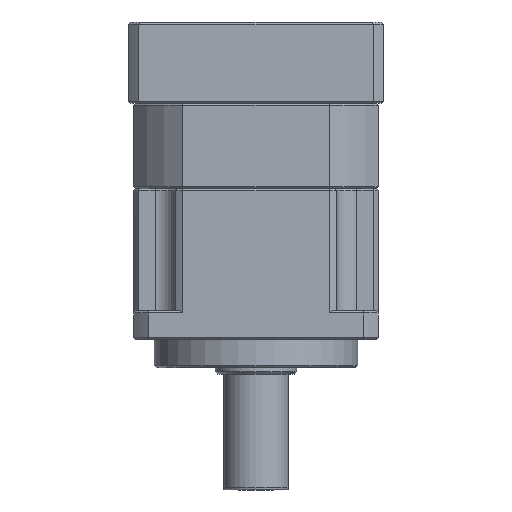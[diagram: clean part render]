
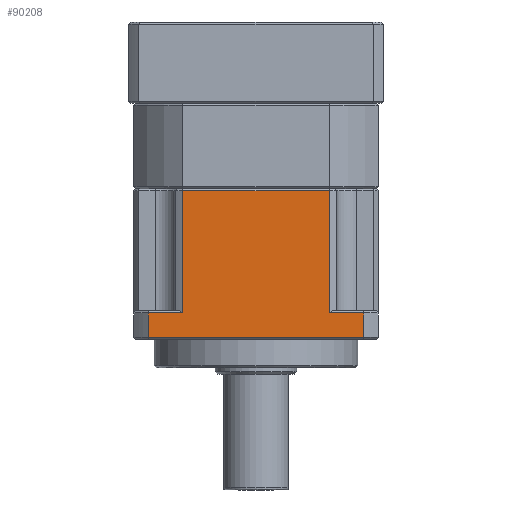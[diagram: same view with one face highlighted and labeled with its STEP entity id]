
A CAD part, front view. The second image highlights one B-rep face of the part: STEP entity #90208.
In plain terms, the highlighted planar face has unit normal (0, -1, 0).
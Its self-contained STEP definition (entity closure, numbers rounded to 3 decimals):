
#239 = DIRECTION ( 'NONE',  ( 0., 0., -1. ) ) ;
#2199 = LINE ( 'NONE', #62845, #70757 ) ;
#2247 = DIRECTION ( 'NONE',  ( 0., 0., 1. ) ) ;
#3970 = CARTESIAN_POINT ( 'NONE',  ( -46.661, -27.039, 74.502 ) ) ;
#5985 = VERTEX_POINT ( 'NONE', #47286 ) ;
#6312 = ORIENTED_EDGE ( 'NONE', *, *, #26081, .F. ) ;
#10538 = EDGE_CURVE ( 'NONE', #29873, #107023, #13650, .T. ) ;
#11016 = VECTOR ( 'NONE', #84479, 1000. ) ;
#11579 = AXIS2_PLACEMENT_3D ( 'NONE', #109171, #55868, #2247 ) ;
#13650 = LINE ( 'NONE', #65803, #58449 ) ;
#14418 = VECTOR ( 'NONE', #98930, 1000. ) ;
#15368 = VERTEX_POINT ( 'NONE', #63423 ) ;
#19273 = FACE_OUTER_BOUND ( 'NONE', #67364, .T. ) ;
#20156 = VERTEX_POINT ( 'NONE', #71833 ) ;
#20387 = VERTEX_POINT ( 'NONE', #111815 ) ;
#21683 = LINE ( 'NONE', #24151, #72039 ) ;
#21994 = CARTESIAN_POINT ( 'NONE',  ( -46.661, -27.039, 111.002 ) ) ;
#22312 = VECTOR ( 'NONE', #99969, 1000. ) ;
#24043 = ORIENTED_EDGE ( 'NONE', *, *, #68649, .F. ) ;
#24128 = EDGE_CURVE ( 'NONE', #20156, #76486, #46098, .T. ) ;
#24151 = CARTESIAN_POINT ( 'NONE',  ( 9.797, -27.039, 80.502 ) ) ;
#26081 = EDGE_CURVE ( 'NONE', #29873, #20387, #106192, .T. ) ;
#29873 = VERTEX_POINT ( 'NONE', #84378 ) ;
#30209 = DIRECTION ( 'NONE',  ( -1., 0., 0. ) ) ;
#37527 = CARTESIAN_POINT ( 'NONE',  ( -2.175, -27.039, 111.002 ) ) ;
#37638 = CARTESIAN_POINT ( 'NONE',  ( 9.797, -27.039, 74.502 ) ) ;
#37831 = ORIENTED_EDGE ( 'NONE', *, *, #24128, .F. ) ;
#38166 = CARTESIAN_POINT ( 'NONE',  ( -38.231, -27.039, 110.502 ) ) ;
#38192 = LINE ( 'NONE', #90040, #14418 ) ;
#41894 = DIRECTION ( 'NONE',  ( 1., 0., 0. ) ) ;
#46098 = LINE ( 'NONE', #37638, #22312 ) ;
#47286 = CARTESIAN_POINT ( 'NONE',  ( 6.254, -27.039, 80.502 ) ) ;
#51329 = LINE ( 'NONE', #86396, #75054 ) ;
#54724 = ORIENTED_EDGE ( 'NONE', *, *, #10538, .T. ) ;
#55172 = EDGE_CURVE ( 'NONE', #5985, #20156, #2199, .T. ) ;
#55868 = DIRECTION ( 'NONE',  ( 0., 1., 0. ) ) ;
#58449 = VECTOR ( 'NONE', #30209, 1000. ) ;
#58877 = VECTOR ( 'NONE', #108819, 1000. ) ;
#61101 = ORIENTED_EDGE ( 'NONE', *, *, #55172, .F. ) ;
#62845 = CARTESIAN_POINT ( 'NONE',  ( 6.254, -27.039, 111.002 ) ) ;
#63423 = CARTESIAN_POINT ( 'NONE',  ( -38.231, -27.039, 80.502 ) ) ;
#65803 = CARTESIAN_POINT ( 'NONE',  ( -50.203, -27.039, 110.502 ) ) ;
#67364 = EDGE_LOOP ( 'NONE', ( #6312, #54724, #107884, #92564, #74094, #37831, #61101, #24043 ) ) ;
#68649 = EDGE_CURVE ( 'NONE', #20387, #5985, #21683, .T. ) ;
#69902 = CARTESIAN_POINT ( 'NONE',  ( -46.661, -27.039, 80.502 ) ) ;
#70757 = VECTOR ( 'NONE', #239, 1000. ) ;
#71833 = CARTESIAN_POINT ( 'NONE',  ( 6.254, -27.039, 74.502 ) ) ;
#72039 = VECTOR ( 'NONE', #95513, 1000. ) ;
#74094 = ORIENTED_EDGE ( 'NONE', *, *, #107802, .F. ) ;
#75054 = VECTOR ( 'NONE', #41894, 1000. ) ;
#76486 = VERTEX_POINT ( 'NONE', #3970 ) ;
#82036 = PLANE ( 'NONE',  #11579 ) ;
#84378 = CARTESIAN_POINT ( 'NONE',  ( -2.175, -27.039, 110.502 ) ) ;
#84479 = DIRECTION ( 'NONE',  ( 0., 0., 1. ) ) ;
#86396 = CARTESIAN_POINT ( 'NONE',  ( 9.797, -27.039, 80.502 ) ) ;
#90040 = CARTESIAN_POINT ( 'NONE',  ( -38.231, -27.039, 111.002 ) ) ;
#90208 = ADVANCED_FACE ( 'NONE', ( #19273 ), #82036, .F. ) ;
#92564 = ORIENTED_EDGE ( 'NONE', *, *, #112570, .F. ) ;
#94640 = VERTEX_POINT ( 'NONE', #69902 ) ;
#95513 = DIRECTION ( 'NONE',  ( 1., 0., 0. ) ) ;
#98930 = DIRECTION ( 'NONE',  ( 0., 0., 1. ) ) ;
#99969 = DIRECTION ( 'NONE',  ( -1., 0., 0. ) ) ;
#100720 = EDGE_CURVE ( 'NONE', #15368, #107023, #38192, .T. ) ;
#105925 = LINE ( 'NONE', #21994, #11016 ) ;
#106192 = LINE ( 'NONE', #37527, #58877 ) ;
#107023 = VERTEX_POINT ( 'NONE', #38166 ) ;
#107802 = EDGE_CURVE ( 'NONE', #76486, #94640, #105925, .T. ) ;
#107884 = ORIENTED_EDGE ( 'NONE', *, *, #100720, .F. ) ;
#108819 = DIRECTION ( 'NONE',  ( 0., 0., -1. ) ) ;
#109171 = CARTESIAN_POINT ( 'NONE',  ( 9.797, -27.039, 111.002 ) ) ;
#111815 = CARTESIAN_POINT ( 'NONE',  ( -2.175, -27.039, 80.502 ) ) ;
#112570 = EDGE_CURVE ( 'NONE', #94640, #15368, #51329, .T. ) ;
